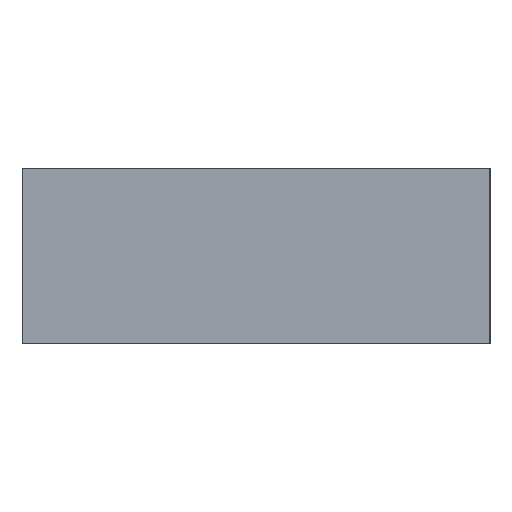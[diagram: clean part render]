
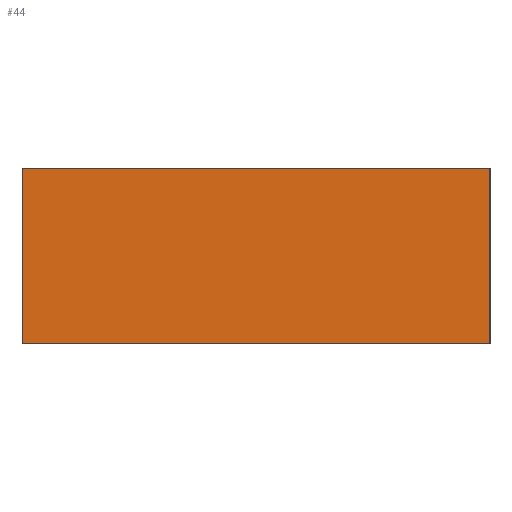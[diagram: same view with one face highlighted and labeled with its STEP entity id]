
A CAD part, left-side view. The second image highlights one B-rep face of the part: STEP entity #44.
In plain terms, the highlighted planar face has unit normal (-1, 0, 0).
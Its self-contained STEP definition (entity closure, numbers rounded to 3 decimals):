
#44 = ADVANCED_FACE( '', ( #94 ), #95, .F. );
#94 = FACE_OUTER_BOUND( '', #147, .T. );
#95 = PLANE( '', #148 );
#147 = EDGE_LOOP( '', ( #210, #211, #212, #213 ) );
#148 = AXIS2_PLACEMENT_3D( '', #214, #215, #216 );
#210 = ORIENTED_EDGE( '', *, *, #311, .T. );
#211 = ORIENTED_EDGE( '', *, *, #312, .F. );
#212 = ORIENTED_EDGE( '', *, *, #299, .F. );
#213 = ORIENTED_EDGE( '', *, *, #308, .T. );
#214 = CARTESIAN_POINT( '', ( -6., 0., 6. ) );
#215 = DIRECTION( '', ( 1., 0., 0. ) );
#216 = DIRECTION( '', ( 0., 0., -1. ) );
#299 = EDGE_CURVE( '', #343, #345, #346, .T. );
#308 = EDGE_CURVE( '', #343, #360, #362, .T. );
#311 = EDGE_CURVE( '', #360, #365, #366, .T. );
#312 = EDGE_CURVE( '', #345, #365, #367, .T. );
#343 = VERTEX_POINT( '', #405 );
#345 = VERTEX_POINT( '', #408 );
#346 = LINE( '', #409, #410 );
#360 = VERTEX_POINT( '', #430 );
#362 = LINE( '', #433, #434 );
#365 = VERTEX_POINT( '', #438 );
#366 = LINE( '', #439, #440 );
#367 = LINE( '', #441, #442 );
#405 = CARTESIAN_POINT( '', ( -6., 0., 6. ) );
#408 = CARTESIAN_POINT( '', ( -6., -32., 6. ) );
#409 = CARTESIAN_POINT( '', ( -6., 0., 6. ) );
#410 = VECTOR( '', #491, 1000. );
#430 = CARTESIAN_POINT( '', ( -6., 0., -6. ) );
#433 = CARTESIAN_POINT( '', ( -6., 0., 6. ) );
#434 = VECTOR( '', #499, 1000. );
#438 = CARTESIAN_POINT( '', ( -6., -32., -6. ) );
#439 = CARTESIAN_POINT( '', ( -6., 0., -6. ) );
#440 = VECTOR( '', #501, 1000. );
#441 = CARTESIAN_POINT( '', ( -6., -32., 6. ) );
#442 = VECTOR( '', #502, 1000. );
#491 = DIRECTION( '', ( 0., -1., 0. ) );
#499 = DIRECTION( '', ( 0., 0., -1. ) );
#501 = DIRECTION( '', ( 0., -1., 0. ) );
#502 = DIRECTION( '', ( 0., 0., -1. ) );
